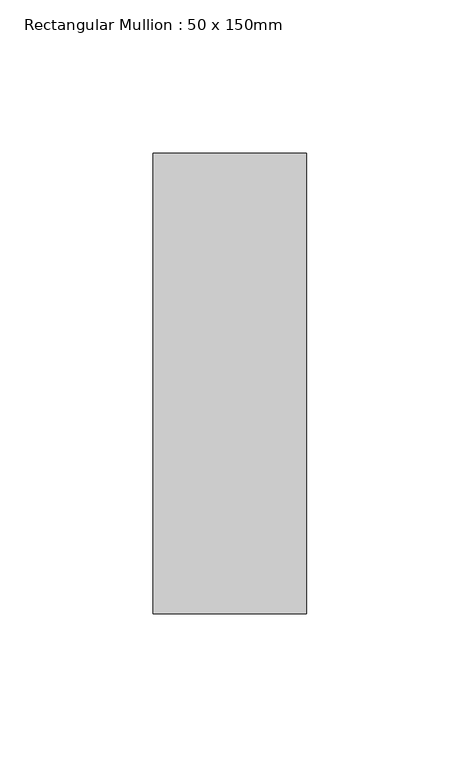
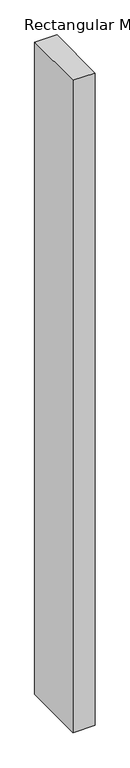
"""IFC4 building model written with IfcOpenShell, lengths in millimetres: member geometry, Rectangular Mullion : 50 x 150mm."""

from ifc_helpers import new_model, si_unit, frame, origin, place, context, project, spatial, polyline, outline, extrude, source, transform, mapped, element, save


def rectangular_mullion_50_x_150mm_a5962b56(model_context):
    return source(origin(), model_context, "Body", "SweptSolid", [
        extrude(outline(polyline([(0.0, 0.0), (-0.1016072, -50.0), (-1556.2775465, -50.0), (-1556.356106, 0.0), (0.0, 0.0)])), frame((0.0, -75.0, 0.0), z_axis=(0.0, 1.0, 0.0), x_axis=(0.0, 0.0, 1.0)), (0.0, 0.0, 1.0), 150.0),
    ])


if __name__ == "__main__":
    model = new_model("IFC4")
    model_context = context("Model", 3, world=origin())
    ifc_project = project(units=[si_unit("LENGTHUNIT", "METRE", prefix="MILLI")], contexts=[model_context])
    site = spatial("IfcSite", under=ifc_project)
    building = spatial("IfcBuilding", under=site)
    placement = place(None, origin())
    rectangular_mullion_50_x_150mm_shape = rectangular_mullion_50_x_150mm_a5962b56(model_context)
    element("IfcMember", 1, ObjectType="Rectangular Mullion : 50 x 150mm", at=placement, inside=building, context=model_context, shape_type="MappedRepresentation", body=[
        mapped(rectangular_mullion_50_x_150mm_shape, transform((0.0, 0.0, 0.0), x_axis=(1.0, 0.0, 0.0), y_axis=(0.0, 1.0, 0.0), z_axis=(0.0, 0.0, 1.0))),
    ])
    save(model, "model.ifc")
